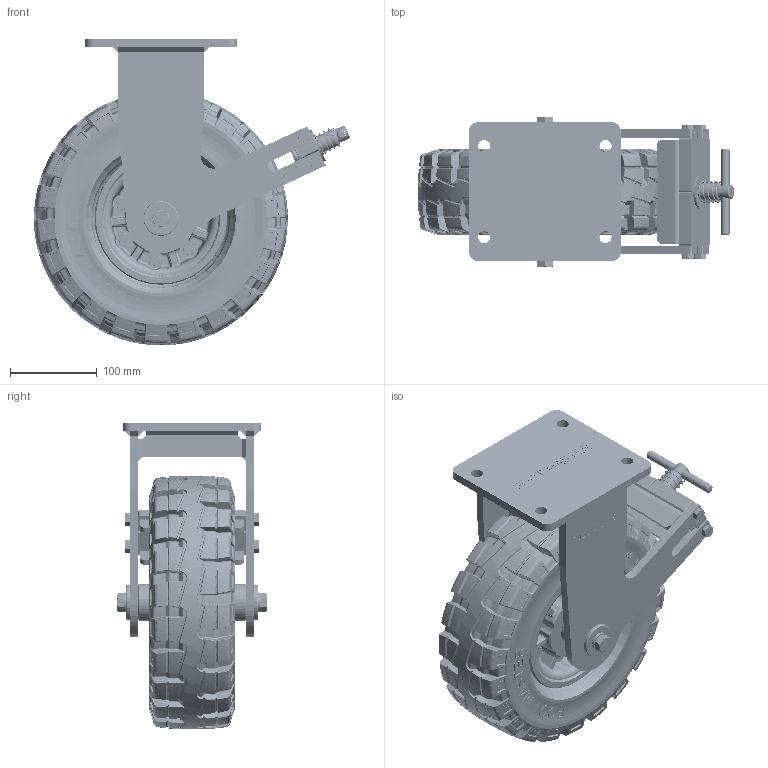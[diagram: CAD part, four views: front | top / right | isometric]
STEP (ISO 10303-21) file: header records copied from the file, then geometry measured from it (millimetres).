
FILE_DESCRIPTION(/* description */ (''),/* implementation_level */ '2;1');
FILE_NAME(/* name */ '\\192.168.10.38\지덕공유\1.기술연구소\2.연구개발 진행중\121.Solidtire caster_2024.11.22\제품설계\3D\홈페이지용\4.GT-300-BRF-TRD.stp',/* time_stamp */ '2025-09-01T10:17:33+09:00',/* author */ ('admin'),/* organization */ (''),/* preprocessor_version */ 'ST-DEVELOPER v18.1',/* originating_system */ 'Autodesk Inventor 2021',/* authorisation */ '');
FILE_SCHEMA (('AUTOMOTIVE_DESIGN { 1 0 10303 214 3 1 1 }'));
Products named in the file (1): 4.GT-300-BRF-TIRE-Rev01_2025.08.08_Shrinkwrap_1
Bounding box: 364.74 x 173 x 353.88 mm (x, y, z)
Volume: 6602099.8 mm3; surface area: 548811.7 mm2
Topology: 2 solids, 2 shells, 9700 faces, 23751 edges, 14301 vertices
Faces by surface type: bspline 5716, plane 1763, cylinder 775, torus 599, cone 595, sphere 252
Full cylindrical faces by diameter (mm): 1 x1, 8 x9, 10.2 x1, 12.5 x7, 14 x4, 16 x2, 17 x5, 20 x1, 24 x1, 40 x3, 42.7 x2, 160 x2
Entity records: 402804 total; most frequent: CARTESIAN_POINT 203867, ORIENTED_EDGE 47390, DIRECTION 26102, EDGE_CURVE 23695, VERTEX_POINT 14301, B_SPLINE_CURVE_WITH_KNOTS 11577, AXIS2_PLACEMENT_3D 10676, EDGE_LOOP 10036
